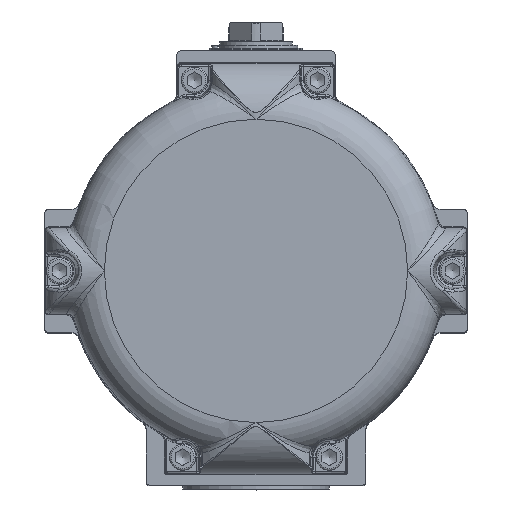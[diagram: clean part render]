
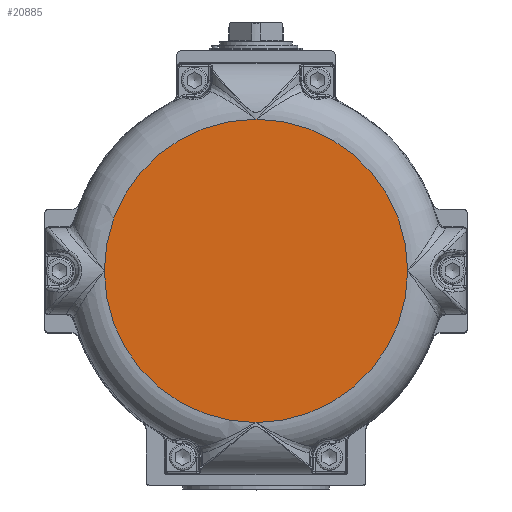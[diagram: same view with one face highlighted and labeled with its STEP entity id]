
A CAD part, top view. The second image highlights one B-rep face of the part: STEP entity #20885.
In plain terms, the highlighted planar face has unit normal (0, 0, 1).
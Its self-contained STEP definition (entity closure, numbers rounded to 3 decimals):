
#13408=CARTESIAN_POINT('',(0.,103.409,186.1));
#13409=VERTEX_POINT('',#13408);
#13430=CARTESIAN_POINT('',(103.409,0.,186.1));
#13431=VERTEX_POINT('',#13430);
#13432=CARTESIAN_POINT('',(0.,0.,186.1));
#13433=DIRECTION('',(0.0,0.0,1.0));
#13434=DIRECTION('',(-1.0,0.0,0.0));
#13435=AXIS2_PLACEMENT_3D('',#13432,#13433,#13434);
#13436=CIRCLE('',#13435,103.409);
#13437=EDGE_CURVE('',#13431,#13409,#13436,.T.);
#13836=CARTESIAN_POINT('',(0.,-103.409,186.1));
#13837=VERTEX_POINT('',#13836);
#13838=CARTESIAN_POINT('',(0.,0.,186.1));
#13839=DIRECTION('',(0.0,0.0,1.0));
#13840=DIRECTION('',(-1.0,0.0,0.0));
#13841=AXIS2_PLACEMENT_3D('',#13838,#13839,#13840);
#13842=CIRCLE('',#13841,103.409);
#13843=EDGE_CURVE('',#13837,#13431,#13842,.T.);
#15917=CARTESIAN_POINT('',(-103.409,0.,186.1));
#15918=VERTEX_POINT('',#15917);
#15919=CARTESIAN_POINT('',(0.,0.,186.1));
#15920=DIRECTION('',(0.0,0.0,1.0));
#15921=DIRECTION('',(-1.0,0.0,0.0));
#15922=AXIS2_PLACEMENT_3D('',#15919,#15920,#15921);
#15923=CIRCLE('',#15922,103.409);
#15924=EDGE_CURVE('',#13409,#15918,#15923,.T.);
#19803=CARTESIAN_POINT('',(0.,0.,186.1));
#19804=DIRECTION('',(0.0,0.0,1.0));
#19805=DIRECTION('',(-1.0,0.0,0.0));
#19806=AXIS2_PLACEMENT_3D('',#19803,#19804,#19805);
#19807=CIRCLE('',#19806,103.409);
#19808=EDGE_CURVE('',#15918,#13837,#19807,.T.);
#20874=CARTESIAN_POINT('',(-51.704,0.,186.1));
#20875=DIRECTION('',(0.0,0.0,1.0));
#20876=DIRECTION('',(0.0,-1.0,0.0));
#20877=AXIS2_PLACEMENT_3D('',#20874,#20875,#20876);
#20878=PLANE('',#20877);
#20879=ORIENTED_EDGE('',*,*,#13437,.T.);
#20880=ORIENTED_EDGE('',*,*,#15924,.T.);
#20881=ORIENTED_EDGE('',*,*,#19808,.T.);
#20882=ORIENTED_EDGE('',*,*,#13843,.T.);
#20883=EDGE_LOOP('',(#20879,#20880,#20881,#20882));
#20884=FACE_OUTER_BOUND('',#20883,.T.);
#20885=ADVANCED_FACE('',(#20884),#20878,.T.);
